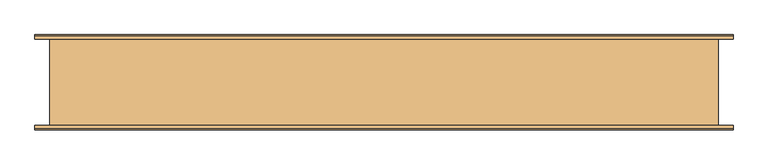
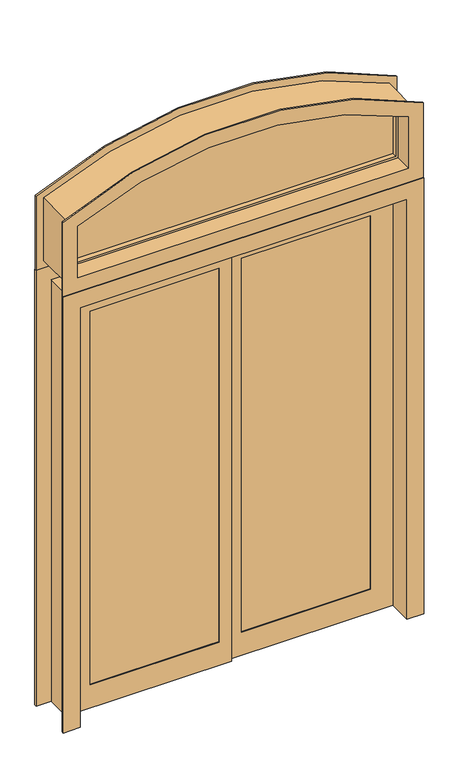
"""IFC4 building model written with IfcOpenShell, lengths in millimetres: door geometry, Pollard_Windows_Vistador Patio Doors_ATS_Extended Segmental : AVDR6080-EST1506."""

from ifc_helpers import new_model, si_unit, point, frame, frame_2d, origin, place, context, project, spatial, polyline, circle_curve, trimmed, segment, composite_curve, outline, extrude, faceted_brep, source, transform, mapped, element, save
from ifc_brep_helpers import plane_surface, cylinder_surface, revolved_surface, advanced_brep


def door_06a20bcf(model_context):
    return source(origin(), model_context, "Body", "SolidModel", [
        extrude(outline(composite_curve([segment(trimmed(circle_curve(frame_2d((879.5048206, 0.0)), 1717.6665721), [point((2414.7086804, 770.4074))], [point((2414.7086804, -770.4074))], False, "CARTESIAN"), True, "CONTINUOUS"), segment(polyline([(2414.7086804, -770.4074), (2135.378, -770.4074), (2135.378, 770.4074), (2414.7086804, 770.4074)]), True, "CONTINUOUS")], self_intersect=False)), frame((0.0, -2.6145378, 0.0), z_axis=(0.0, 1.0, 0.0), x_axis=(0.0, 0.0, 1.0)), (0.0, 0.0, 1.0), 5.2290756),
        advanced_brep(
        [(770.4074, -25.4, 2135.378), (770.4074, 25.4, 2135.378), (770.4074, 25.4, 2414.7086804), (770.4074, -25.4, 2414.7086804), (740.4292258, -2.6145378, 2165.3561742), (740.4292258, -25.4, 2165.3561742), (740.4292258, -25.4, 2396.0985994), (740.4292258, -2.6145378, 2396.0985994), (750.0874, 2.6145378, 2155.698), (750.0874, -2.6145378, 2155.698), (750.0874, -2.6145378, 2402.1191113), (750.0874, 2.6145378, 2402.1191113), (740.4292258, 25.4, 2165.3561742), (740.4292258, 2.6145378, 2165.3561742), (740.4292258, 2.6145378, 2396.0985994), (740.4292258, 25.4, 2396.0985994), (-770.4074, -25.4, 2414.7086804), (-770.4074, 25.4, 2414.7086804), (-770.4074, -25.4, 2135.378), (-740.4292258, -25.4, 2396.0985994), (-740.4292258, -25.4, 2165.3561742), (-740.4292258, -2.6145378, 2396.0985994), (-750.0874, -2.6145378, 2402.1191113), (-750.0874, -2.6145378, 2155.698), (-740.4292258, -2.6145378, 2165.3561742), (-750.0874, 2.6145378, 2402.1191113), (-750.0874, 2.6145378, 2155.698), (-740.4292258, 2.6145378, 2396.0985994), (-740.4292258, 2.6145378, 2165.3561742), (-740.4292258, 25.4, 2396.0985994), (-770.4074, 25.4, 2135.378), (-740.4292258, 25.4, 2165.3561742)],
        [
            (0, 1),
            (1, 2),
            (2, 3),
            (3, 0),
            (4, 5),
            (5, 6),
            (6, 7),
            (7, 4),
            (8, 9),
            (9, 10),
            (10, 11),
            (11, 8),
            (12, 13),
            (13, 14),
            (14, 15),
            (15, 12),
            (16, 3, circle_curve(frame((0.0, -25.4, 879.5048206), z_axis=(0.0, 1.0, 0.0), x_axis=(0.45256734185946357, 0.0, 0.8917302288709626)), 1717.6665721)),
            (2, 17, circle_curve(frame((0.0, 25.4, 879.5048206), z_axis=(0.0, -1.0, 0.0), x_axis=(0.45256734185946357, 0.0, 0.8917302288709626)), 1717.6665721)),
            (17, 16),
            (16, 18),
            (18, 0),
            (19, 6, circle_curve(frame((0.0, -25.4, 879.5048206), z_axis=(0.0, 1.0, 0.0), x_axis=(0.45256734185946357, 0.0, 0.8917302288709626)), 1687.6883979)),
            (5, 20),
            (20, 19),
            (21, 7, circle_curve(frame((0.0, -2.6145378, 879.5048206), z_axis=(0.0, 1.0, 0.0), x_axis=(0.45256734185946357, 0.0, 0.8917302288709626)), 1687.6883979)),
            (19, 21),
            (22, 10, circle_curve(frame((0.0, -2.6145378, 879.5048206), z_axis=(0.0, 1.0, 0.0), x_axis=(0.45256734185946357, 0.0, 0.8917302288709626)), 1697.3465721)),
            (9, 23),
            (23, 22),
            (21, 24),
            (24, 4),
            (25, 11, circle_curve(frame((0.0, 2.6145378, 879.5048206), z_axis=(0.0, 1.0, 0.0), x_axis=(0.45256734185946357, 0.0, 0.8917302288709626)), 1697.3465721)),
            (22, 25),
            (25, 26),
            (26, 8),
            (27, 14, circle_curve(frame((0.0, 2.6145378, 879.5048206), z_axis=(0.0, 1.0, 0.0), x_axis=(0.45256734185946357, 0.0, 0.8917302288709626)), 1687.6883979)),
            (13, 28),
            (28, 27),
            (29, 15, circle_curve(frame((0.0, 25.4, 879.5048206), z_axis=(0.0, 1.0, 0.0), x_axis=(0.45256734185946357, 0.0, 0.8917302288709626)), 1687.6883979)),
            (27, 29),
            (1, 30),
            (30, 17),
            (29, 31),
            (31, 12),
            (30, 18),
            (20, 24),
            (23, 26),
            (28, 31),
        ],
        [
            plane_surface(frame((770.4074, 25.4, 2135.378), z_axis=(1.0, 0.0, 0.0), x_axis=(0.0, 0.0, 1.0))),
            plane_surface(frame((740.4292258, -25.4, 2165.3561742), z_axis=(-1.0, 0.0, 0.0), x_axis=(0.0, 0.0, 1.0))),
            plane_surface(frame((750.0874, -2.6145378, 2155.698), z_axis=(-1.0, 0.0, 0.0), x_axis=(0.0, 0.0, 1.0))),
            plane_surface(frame((740.4292258, 2.6145378, 2165.3561742), z_axis=(-1.0, 0.0, 0.0), x_axis=(0.0, 0.0, 1.0))),
            cylinder_surface(frame((0.0, 0.0, 879.5048206), z_axis=(0.0, -1.0, 0.0), x_axis=(0.45256734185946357, 0.0, 0.8917302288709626)), 1717.6665721),
            plane_surface(frame((0.0, -25.4, 879.5048206), z_axis=(0.0, -1.0, 0.0), x_axis=(0.45256734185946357, 0.0, 0.8917302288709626))),
            revolved_surface(polyline([(763.7926521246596, -25.4, 2384.4675819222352), (763.7926521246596, -2.6145378, 2384.4675819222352)]), (0.0, 0.0, 879.5048206), (0.0, -1.0, 0.0)),
            plane_surface(frame((0.0, -2.6145378, 879.5048206), z_axis=(0.0, 1.0, 0.0), x_axis=(0.45256734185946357, 0.0, 0.8917302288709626))),
            revolved_surface(polyline([(768.1636263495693, -2.6145378, 2393.080067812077), (768.1636263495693, 2.6145378, 2393.080067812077)]), (0.0, 0.0, 879.5048206), (0.0, -1.0, 0.0)),
            plane_surface(frame((0.0, 2.6145378, 879.5048206), z_axis=(0.0, -1.0, 0.0), x_axis=(0.45256734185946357, 0.0, 0.8917302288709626))),
            revolved_surface(polyline([(763.7926521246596, 2.6145378, 2384.4675819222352), (763.7926521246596, 25.4, 2384.4675819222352)]), (0.0, 0.0, 879.5048206), (0.0, -1.0, 0.0)),
            plane_surface(frame((0.0, 25.4, 879.5048206), z_axis=(0.0, 1.0, 0.0), x_axis=(0.45256734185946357, 0.0, 0.8917302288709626))),
            plane_surface(frame((-770.4074, 25.4, 2414.7086804), z_axis=(-1.0, 0.0, 0.0), x_axis=(0.0, 0.0, -1.0))),
            plane_surface(frame((-740.4292258, -25.4, 2396.0985994), z_axis=(1.0, 0.0, 0.0), x_axis=(0.0, 0.0, -1.0))),
            plane_surface(frame((-750.0874, -2.6145378, 2402.1191113), z_axis=(1.0, 0.0, 0.0), x_axis=(0.0, 0.0, -1.0))),
            plane_surface(frame((-740.4292258, 2.6145378, 2396.0985994), z_axis=(1.0, 0.0, 0.0), x_axis=(0.0, 0.0, -1.0))),
            plane_surface(frame((-770.4074, 25.4, 2135.378), z_axis=(0.0, 0.0, -1.0), x_axis=(1.0, 0.0, 0.0))),
            plane_surface(frame((-740.4292258, -25.4, 2165.3561742), z_axis=(0.0, 0.0, 1.0), x_axis=(1.0, 0.0, 0.0))),
            plane_surface(frame((-750.0874, -2.6145378, 2155.698), z_axis=(0.0, 0.0, 1.0), x_axis=(1.0, 0.0, 0.0))),
            plane_surface(frame((-740.4292258, 2.6145378, 2165.3561742), z_axis=(0.0, 0.0, 1.0), x_axis=(1.0, 0.0, 0.0))),
        ],
        [
            (0, [[1, 2, 3, 4]]),
            (1, [[5, 6, 7, 8]]),
            (2, [[9, 10, 11, 12]]),
            (3, [[13, 14, 15, 16]]),
            (4, [[17, -3, 18, 19]]),
            (5, [[-17, 20, 21, -4], [22, -6, 23, 24]]),
            (6, [[25, -7, -22, 26]]),
            (7, [[27, -10, 28, 29], [-25, 30, 31, -8]]),
            (8, [[32, -11, -27, 33]]),
            (9, [[-32, 34, 35, -12], [36, -14, 37, 38]]),
            (10, [[39, -15, -36, 40]]),
            (11, [[-18, -2, 41, 42], [-39, 43, 44, -16]]),
            (12, [[-19, -42, 45, -20]]),
            (13, [[-26, -24, 46, -30]]),
            (14, [[-33, -29, 47, -34]]),
            (15, [[-40, -38, 48, -43]]),
            (16, [[-45, -41, -1, -21]]),
            (17, [[-46, -23, -5, -31]]),
            (18, [[-47, -28, -9, -35]]),
            (19, [[-48, -37, -13, -44]]),
        ],
    ),
        advanced_brep(
        [(-818.2864, -107.95, 2443.972313), (-818.2864, -101.6, 2443.972313), (-818.2864, -101.6, 2087.499), (-818.2864, -107.95, 2087.499), (-750.0874, -25.4, 2402.1191113), (-750.0874, -101.6, 2402.1191113), (-750.0874, -107.95, 2402.1191113), (-750.0874, -107.95, 2155.698), (-750.0874, -25.4, 2155.698), (-770.4074, 25.4, 2414.7086804), (-770.4074, -25.4, 2414.7086804), (-770.4074, -25.4, 2135.378), (-770.4074, 25.4, 2135.378), (-750.0874, 107.95, 2402.1191113), (-750.0874, 25.4, 2402.1191113), (-750.0874, 25.4, 2155.698), (-750.0874, 107.95, 2155.698), (-818.2864, 101.6, 2443.972313), (-818.2864, 107.95, 2443.972313), (-818.2864, 107.95, 2087.499), (-818.2864, 101.6, 2087.499), (-783.1074, -101.6, 2422.525), (-783.1074, 101.6, 2422.525), (-783.1074, 101.6, 2122.678), (-783.1074, -101.6, 2122.678), (818.2864, -101.6, 2087.499), (818.2864, -107.95, 2087.499), (750.0874, -107.95, 2155.698), (750.0874, -25.4, 2155.698), (770.4074, -25.4, 2135.378), (770.4074, 25.4, 2135.378), (750.0874, 25.4, 2155.698), (750.0874, 107.95, 2155.698), (818.2864, 107.95, 2087.499), (818.2864, 101.6, 2087.499), (783.1074, 101.6, 2122.678), (783.1074, -101.6, 2122.678), (818.2864, -101.6, 2443.972313), (818.2864, -107.95, 2443.972313), (750.0874, -107.95, 2402.1191113), (750.0874, -101.6, 2402.1191113), (750.0874, -25.4, 2402.1191113), (770.4074, -25.4, 2414.7086804), (770.4074, 25.4, 2414.7086804), (750.0874, 25.4, 2402.1191113), (750.0874, 107.95, 2402.1191113), (818.2864, 107.95, 2443.972313), (818.2864, 101.6, 2443.972313), (783.1074, 101.6, 2422.525), (783.1074, -101.6, 2422.525)],
        [
            (0, 1),
            (1, 2),
            (2, 3),
            (3, 0),
            (4, 5),
            (5, 6),
            (6, 7),
            (7, 8),
            (8, 4),
            (9, 10),
            (10, 11),
            (11, 12),
            (12, 9),
            (13, 14),
            (14, 15),
            (15, 16),
            (16, 13),
            (17, 18),
            (18, 19),
            (19, 20),
            (20, 17),
            (21, 22),
            (22, 23),
            (23, 24),
            (24, 21),
            (2, 25),
            (25, 26),
            (26, 3),
            (7, 27),
            (27, 28),
            (28, 8),
            (11, 29),
            (29, 30),
            (30, 12),
            (15, 31),
            (31, 32),
            (32, 16),
            (19, 33),
            (33, 34),
            (34, 20),
            (23, 35),
            (35, 36),
            (36, 24),
            (25, 37),
            (37, 38),
            (38, 26),
            (27, 39),
            (39, 40),
            (40, 41),
            (41, 28),
            (29, 42),
            (42, 43),
            (43, 30),
            (31, 44),
            (44, 45),
            (45, 32),
            (33, 46),
            (46, 47),
            (47, 34),
            (35, 48),
            (48, 49),
            (49, 36),
            (1, 37, circle_curve(frame((0.0, -101.6, 879.5048206), z_axis=(0.0, 1.0, 0.0), x_axis=(0.452567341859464, 0.0, 0.8917302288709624)), 1765.5455721)),
            (49, 21, circle_curve(frame((0.0, -101.6, 879.5048206), z_axis=(0.0, -1.0, 0.0), x_axis=(0.452567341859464, 0.0, 0.8917302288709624)), 1730.3665721)),
            (0, 38, circle_curve(frame((0.0, -107.95, 879.5048206), z_axis=(0.0, 1.0, 0.0), x_axis=(0.452567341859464, 0.0, 0.8917302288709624)), 1765.5455721)),
            (6, 39, circle_curve(frame((0.0, -107.95, 879.5048206), z_axis=(0.0, 1.0, 0.0), x_axis=(0.452567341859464, 0.0, 0.8917302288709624)), 1697.3465721)),
            (5, 40, circle_curve(frame((0.0, -101.6, 879.5048206), z_axis=(0.0, 1.0, 0.0), x_axis=(0.452567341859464, 0.0, 0.8917302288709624)), 1697.3465721)),
            (4, 41, circle_curve(frame((0.0, -25.4, 879.5048206), z_axis=(0.0, 1.0, 0.0), x_axis=(0.452567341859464, 0.0, 0.8917302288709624)), 1697.3465721)),
            (10, 42, circle_curve(frame((0.0, -25.4, 879.5048206), z_axis=(0.0, 1.0, 0.0), x_axis=(0.452567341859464, 0.0, 0.8917302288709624)), 1717.6665721)),
            (9, 43, circle_curve(frame((0.0, 25.4, 879.5048206), z_axis=(0.0, 1.0, 0.0), x_axis=(0.452567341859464, 0.0, 0.8917302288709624)), 1717.6665721)),
            (14, 44, circle_curve(frame((0.0, 25.4, 879.5048206), z_axis=(0.0, 1.0, 0.0), x_axis=(0.452567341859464, 0.0, 0.8917302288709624)), 1697.3465721)),
            (13, 45, circle_curve(frame((0.0, 107.95, 879.5048206), z_axis=(0.0, 1.0, 0.0), x_axis=(0.452567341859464, 0.0, 0.8917302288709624)), 1697.3465721)),
            (18, 46, circle_curve(frame((0.0, 107.95, 879.5048206), z_axis=(0.0, 1.0, 0.0), x_axis=(0.452567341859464, 0.0, 0.8917302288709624)), 1765.5455721)),
            (17, 47, circle_curve(frame((0.0, 101.6, 879.5048206), z_axis=(0.0, 1.0, 0.0), x_axis=(0.452567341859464, 0.0, 0.8917302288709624)), 1765.5455721)),
            (22, 48, circle_curve(frame((0.0, 101.6, 879.5048206), z_axis=(0.0, 1.0, 0.0), x_axis=(0.452567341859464, 0.0, 0.8917302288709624)), 1730.3665721)),
        ],
        [
            plane_surface(frame((-818.2864, -101.6, 2443.972313), z_axis=(-1.0, 0.0, 0.0), x_axis=(0.0, 0.0, -1.0))),
            plane_surface(frame((-750.0874, -101.6, 2402.1191113), z_axis=(1.0, 0.0, 0.0), x_axis=(0.0, 0.0, -1.0))),
            plane_surface(frame((-770.4074, -25.4, 2414.7086804), z_axis=(1.0, 0.0, 0.0), x_axis=(0.0, 0.0, -1.0))),
            plane_surface(frame((-750.0874, 25.4, 2402.1191113), z_axis=(1.0, 0.0, 0.0), x_axis=(0.0, 0.0, -1.0))),
            plane_surface(frame((-818.2864, 107.95, 2443.972313), z_axis=(-1.0, 0.0, 0.0), x_axis=(0.0, 0.0, -1.0))),
            plane_surface(frame((-783.1074, 101.6, 2422.525), z_axis=(-1.0, 0.0, 0.0), x_axis=(0.0, 0.0, -1.0))),
            plane_surface(frame((-818.2864, -101.6, 2087.499), z_axis=(0.0, 0.0, -1.0), x_axis=(1.0, 0.0, 0.0))),
            plane_surface(frame((-750.0874, -101.6, 2155.698), z_axis=(0.0, 0.0, 1.0), x_axis=(1.0, 0.0, 0.0))),
            plane_surface(frame((-770.4074, -25.4, 2135.378), z_axis=(0.0, 0.0, 1.0), x_axis=(1.0, 0.0, 0.0))),
            plane_surface(frame((-750.0874, 25.4, 2155.698), z_axis=(0.0, 0.0, 1.0), x_axis=(1.0, 0.0, 0.0))),
            plane_surface(frame((-818.2864, 107.95, 2087.499), z_axis=(0.0, 0.0, -1.0), x_axis=(1.0, 0.0, 0.0))),
            plane_surface(frame((-783.1074, 101.6, 2122.678), z_axis=(0.0, 0.0, -1.0), x_axis=(1.0, 0.0, 0.0))),
            plane_surface(frame((818.2864, -101.6, 2087.499), z_axis=(1.0, 0.0, 0.0), x_axis=(0.0, 0.0, 1.0))),
            plane_surface(frame((750.0874, -101.6, 2155.698), z_axis=(-1.0, 0.0, 0.0), x_axis=(0.0, 0.0, 1.0))),
            plane_surface(frame((770.4074, -25.4, 2135.378), z_axis=(-1.0, 0.0, 0.0), x_axis=(0.0, 0.0, 1.0))),
            plane_surface(frame((750.0874, 25.4, 2155.698), z_axis=(-1.0, 0.0, 0.0), x_axis=(0.0, 0.0, 1.0))),
            plane_surface(frame((818.2864, 107.95, 2087.499), z_axis=(1.0, 0.0, 0.0), x_axis=(0.0, 0.0, 1.0))),
            plane_surface(frame((783.1074, 101.6, 2122.678), z_axis=(1.0, 0.0, 0.0), x_axis=(0.0, 0.0, 1.0))),
            plane_surface(frame((0.0, -101.6, 879.5048206), z_axis=(0.0, 1.0, 0.0), x_axis=(0.452567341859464, 0.0, 0.8917302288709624))),
            cylinder_surface(frame((0.0, 101.6, 879.5048206), z_axis=(0.0, -1.0, 0.0), x_axis=(0.452567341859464, 0.0, 0.8917302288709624)), 1765.5455721),
            plane_surface(frame((0.0, -107.95, 879.5048206), z_axis=(0.0, -1.0, 0.0), x_axis=(0.452567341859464, 0.0, 0.8917302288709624))),
            revolved_surface(polyline([(768.1636263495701, -107.95000000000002, 2393.0800678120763), (768.1636263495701, -101.6, 2393.0800678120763)]), (0.0, 101.6, 879.5048206), (0.0, -1.0, 0.0)),
            revolved_surface(polyline([(768.1636263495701, -101.6, 2393.0800678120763), (768.1636263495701, -25.400000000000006, 2393.0800678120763)]), (0.0, 101.6, 879.5048206), (0.0, -1.0, 0.0)),
            plane_surface(frame((0.0, -25.4, 879.5048206), z_axis=(0.0, 1.0, 0.0), x_axis=(0.452567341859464, 0.0, 0.8917302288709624))),
            revolved_surface(polyline([(777.3597947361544, -25.400000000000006, 2411.2000260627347), (777.3597947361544, 25.400000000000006, 2411.2000260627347)]), (0.0, 101.6, 879.5048206), (0.0, -1.0, 0.0)),
            plane_surface(frame((0.0, 25.4, 879.5048206), z_axis=(0.0, -1.0, 0.0), x_axis=(0.452567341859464, 0.0, 0.8917302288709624))),
            revolved_surface(polyline([(768.1636263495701, 25.400000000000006, 2393.0800678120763), (768.1636263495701, 107.95, 2393.0800678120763)]), (0.0, 101.6, 879.5048206), (0.0, -1.0, 0.0)),
            plane_surface(frame((0.0, 107.95, 879.5048206), z_axis=(0.0, 1.0, 0.0), x_axis=(0.452567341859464, 0.0, 0.8917302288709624))),
            plane_surface(frame((0.0, 101.6, 879.5048206), z_axis=(0.0, -1.0, 0.0), x_axis=(0.452567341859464, 0.0, 0.8917302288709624))),
            cylinder_surface(frame((0.0, 101.6, 879.5048206), z_axis=(0.0, -1.0, 0.0), x_axis=(0.452567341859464, 0.0, 0.8917302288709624)), 1730.3665721),
        ],
        [
            (0, [[1, 2, 3, 4]]),
            (1, [[5, 6, 7, 8, 9]]),
            (2, [[10, 11, 12, 13]]),
            (3, [[14, 15, 16, 17]]),
            (4, [[18, 19, 20, 21]]),
            (5, [[22, 23, 24, 25]]),
            (6, [[-3, 26, 27, 28]]),
            (7, [[-8, 29, 30, 31]]),
            (8, [[-12, 32, 33, 34]]),
            (9, [[-16, 35, 36, 37]]),
            (10, [[-20, 38, 39, 40]]),
            (11, [[-24, 41, 42, 43]]),
            (12, [[-27, 44, 45, 46]]),
            (13, [[-30, 47, 48, 49, 50]]),
            (14, [[-33, 51, 52, 53]]),
            (15, [[-36, 54, 55, 56]]),
            (16, [[-39, 57, 58, 59]]),
            (17, [[-42, 60, 61, 62]]),
            (18, [[63, -44, -26, -2], [-43, -62, 64, -25]]),
            (19, [[65, -45, -63, -1]]),
            (20, [[-28, -46, -65, -4], [66, -47, -29, -7]]),
            (21, [[67, -48, -66, -6]]),
            (22, [[68, -49, -67, -5]]),
            (23, [[69, -51, -32, -11], [-31, -50, -68, -9]]),
            (24, [[70, -52, -69, -10]]),
            (25, [[-34, -53, -70, -13], [71, -54, -35, -15]]),
            (26, [[72, -55, -71, -14]]),
            (27, [[73, -57, -38, -19], [-37, -56, -72, -17]]),
            (19, [[74, -58, -73, -18]]),
            (28, [[-40, -59, -74, -21], [75, -60, -41, -23]]),
            (29, [[-64, -61, -75, -22]]),
        ],
    ),
        extrude(outline(polyline([(-54.991, -10.0399998), (-640.1054, -10.0399998), (-640.1054, -4.9599998), (-54.991, -4.9599998), (-54.991, -10.0399998)])), frame((0.0, 0.0, 109.982), z_axis=(0.0, 0.0, 1.0), x_axis=(1.0, 0.0, 0.0)), (0.0, 0.0, 1.0), 1790.586),
        extrude(outline(polyline([(54.991, 10.0399998), (640.1054, 10.0399998), (640.1054, 4.9599998), (54.991, 4.9599998), (54.991, 10.0399998)])), frame((0.0, 0.0, 109.982), z_axis=(0.0, 0.0, 1.0), x_axis=(1.0, 0.0, 0.0)), (0.0, 0.0, 1.0), 1790.586),
        extrude(outline(polyline([(2010.55, 741.3374), (2010.55, 0.0), (0.0, 0.0), (0.0, 741.3374), (2010.55, 741.3374)]), holes=[polyline([(109.982, 640.1054), (109.982, 54.991), (1900.568, 54.991), (1900.568, 640.1054), (109.982, 640.1054)])]), frame((0.0, 0.0, 0.0), z_axis=(0.0, 1.0, 0.0), x_axis=(0.0, 0.0, 1.0)), (0.0, 0.0, 1.0), 14.9999996),
        extrude(outline(polyline([(2010.55, -741.3374), (0.0, -741.3374), (0.0, 0.0), (2010.55, 0.0), (2010.55, -741.3374)]), holes=[polyline([(1900.568, -640.1054), (1900.568, -54.991), (109.982, -54.991), (109.982, -640.1054), (1900.568, -640.1054)])]), frame((0.0, -14.9999996, 0.0), z_axis=(0.0, 1.0, 0.0), x_axis=(0.0, 0.0, 1.0)), (0.0, 0.0, 1.0), 14.9999996),
        faceted_brep([(818.2864, 111.6, 0.0), (818.2864, 101.6, 0.0), (750.0874, 101.6, 0.0), (750.0874, -101.6, 0.0), (818.2864, -101.6, 0.0), (818.2864, -111.6, 0.0), (741.3374, -111.6, 0.0), (741.3374, 111.6, 0.0), (818.2864, 111.6, 2087.499), (818.2864, 101.6, 2087.499), (-818.2864, 101.6, 2087.499), (-818.2864, 101.6, 0.0), (-750.0874, 101.6, 0.0), (-750.0874, 101.6, 2019.3), (750.0874, 101.6, 2019.3), (750.0874, -101.6, 2019.3), (-750.0874, -101.6, 2019.3), (-750.0874, -101.6, 0.0), (-818.2864, -101.6, 0.0), (-818.2864, -101.6, 2087.499), (818.2864, -101.6, 2087.499), (818.2864, -111.6, 2087.499), (-818.2864, -111.6, 2087.499), (-818.2864, -111.6, 0.0), (-741.3374, -111.6, 0.0), (-741.3374, -111.6, 2010.55), (741.3374, -111.6, 2010.55), (741.3374, 111.6, 2010.55), (-741.3374, 111.6, 2010.55), (-741.3374, 111.6, 0.0), (-818.2864, 111.6, 0.0), (-818.2864, 111.6, 2087.499)], [[[0, 1, 2, 3, 4, 5, 6, 7]], [[1, 0, 8, 9]], [[2, 1, 9, 10, 11, 12, 13, 14]], [[2, 14, 15, 3]], [[4, 3, 15, 16, 17, 18, 19, 20]], [[5, 4, 20, 21]], [[6, 5, 21, 22, 23, 24, 25, 26]], [[6, 26, 27, 7]], [[0, 7, 27, 28, 29, 30, 31, 8]], [[30, 29, 24, 23, 18, 17, 12, 11]], [[28, 25, 24, 29]], [[22, 19, 18, 23]], [[16, 13, 12, 17]], [[10, 31, 30, 11]], [[9, 8, 31, 10]], [[27, 26, 25, 28]], [[15, 14, 13, 16]], [[21, 20, 19, 22]]]),
    ])


if __name__ == "__main__":
    model = new_model("IFC4")
    model_context = context("Model", 3, world=origin())
    ifc_project = project(units=[si_unit("LENGTHUNIT", "METRE", prefix="MILLI")], contexts=[model_context])
    site = spatial("IfcSite", under=ifc_project)
    building = spatial("IfcBuilding", under=site)
    placement = place(None, origin())
    door_shape = door_06a20bcf(model_context)
    element("IfcDoor", 1, ObjectType="Pollard_Windows_Vistador Patio Doors_ATS_Extended Segmental : AVDR6080-EST1506", at=placement, inside=building, context=model_context, shape_type="MappedRepresentation", body=[
        mapped(door_shape, transform((0.0, 0.0, 0.0), x_axis=(1.0, 0.0, 0.0), y_axis=(0.0, 1.0, 0.0), z_axis=(0.0, 0.0, 1.0))),
    ])
    save(model, "model.ifc")
